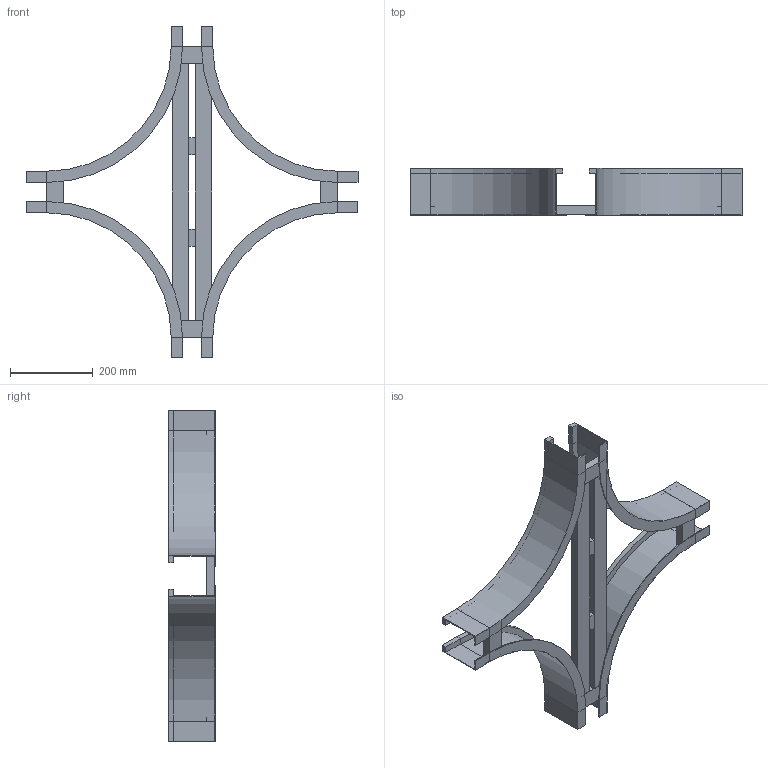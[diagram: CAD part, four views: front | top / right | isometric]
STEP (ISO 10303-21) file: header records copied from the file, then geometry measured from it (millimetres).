
FILE_DESCRIPTION (( 'STEP AP214' ), '1' );
FILE_NAME ('B2_17B3J100.step', '2025-02-21T15:57:06', ( '' ), ( '' ), 'SwSTEP 2.0', 'SolidWorks 2023', '' );
FILE_SCHEMA (( 'AUTOMOTIVE_DESIGN' ));
Length unit declared in the file: millimetre
Products named in the file (5): B2_TRAVERSINO_LONG._R300+100; B2_LONGH.INTERNO 90°_H112.5_R300; TRAVERSINO_100; TRAVERSINO_INTERMEDIO_R300+100; B2_17B3J100
Assembly tree (12 placements, depth 2):
  B2_17B3J100
    B2_LONGH.INTERNO 90°_H112.5_R300  x4
    TRAVERSINO_100  x4
    B2_TRAVERSINO_LONG._R300+100  x2
    TRAVERSINO_INTERMEDIO_R300+100  x2
Bounding box: 800 x 112.5 x 800 mm (x, y, z)
Volume: 2423227 mm3; surface area: 936734.5 mm2
Topology: 12 solids, 12 shells, 152 faces, 320 edges, 192 vertices
Faces by surface type: plane 136, cylinder 16
Entity records: 1354 total; most frequent: DIRECTION 218, CARTESIAN_POINT 207, ORIENTED_EDGE 184, EDGE_CURVE 92, LINE 84, VECTOR 84, AXIS2_PLACEMENT_3D 67, VERTEX_POINT 56
